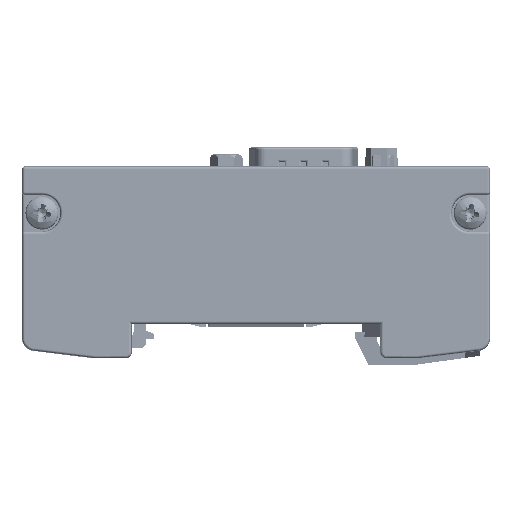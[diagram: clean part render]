
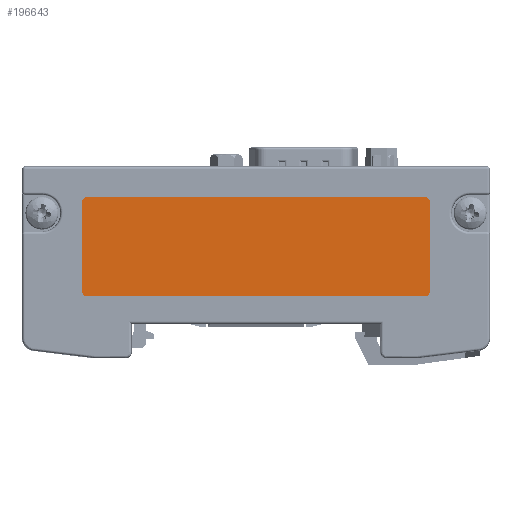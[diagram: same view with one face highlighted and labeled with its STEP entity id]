
A CAD part, left-side view. The second image highlights one B-rep face of the part: STEP entity #196643.
In plain terms, the highlighted planar face has unit normal (-1, 0, 0) as drawn and (0, 0, -1) by its records, which use the part's own axes.
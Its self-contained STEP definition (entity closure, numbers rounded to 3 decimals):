
#757 = DIRECTION ( 'NONE',  ( 0., 1., 0. ) ) ;
#799 = CARTESIAN_POINT ( 'NONE',  ( -21., 28., -3.9 ) ) ;
#1771 = EDGE_CURVE ( 'NONE', #51169, #1893, #32505, .T. ) ;
#1893 = VERTEX_POINT ( 'NONE', #146361 ) ;
#2555 = AXIS2_PLACEMENT_3D ( 'NONE', #127467, #6373, #196494 ) ;
#5740 = FACE_OUTER_BOUND ( 'NONE', #219144, .T. ) ;
#6373 = DIRECTION ( 'NONE',  ( 0., 0., -1. ) ) ;
#7276 = VECTOR ( 'NONE', #65234, 1000. ) ;
#9099 = CARTESIAN_POINT ( 'NONE',  ( -5.75, -28., -3.9 ) ) ;
#12184 = CARTESIAN_POINT ( 'NONE',  ( -20.25, -27.25, -3.9 ) ) ;
#13172 = LINE ( 'NONE', #82224, #7276 ) ;
#20546 = DIRECTION ( 'NONE',  ( 0., -1., 0. ) ) ;
#26476 = EDGE_CURVE ( 'NONE', #1893, #84653, #170309, .T. ) ;
#27188 = VERTEX_POINT ( 'NONE', #131091 ) ;
#30288 = ORIENTED_EDGE ( 'NONE', *, *, #71427, .T. ) ;
#30463 = VERTEX_POINT ( 'NONE', #104572 ) ;
#30677 = EDGE_CURVE ( 'NONE', #49175, #27188, #168936, .T. ) ;
#32505 = LINE ( 'NONE', #799, #89535 ) ;
#33141 = AXIS2_PLACEMENT_3D ( 'NONE', #40536, #209255, #56385 ) ;
#38627 = AXIS2_PLACEMENT_3D ( 'NONE', #12184, #46111, #44989 ) ;
#40536 = CARTESIAN_POINT ( 'NONE',  ( -20.25, 27.25, -3.9 ) ) ;
#41919 = PLANE ( 'NONE',  #49387 ) ;
#44989 = DIRECTION ( 'NONE',  ( -1., 0., 0. ) ) ;
#46005 = ORIENTED_EDGE ( 'NONE', *, *, #26476, .T. ) ;
#46111 = DIRECTION ( 'NONE',  ( 0., 0., -1. ) ) ;
#48112 = DIRECTION ( 'NONE',  ( 0., 0., -1. ) ) ;
#49175 = VERTEX_POINT ( 'NONE', #173368 ) ;
#49387 = AXIS2_PLACEMENT_3D ( 'NONE', #194734, #75890, #72563 ) ;
#51169 = VERTEX_POINT ( 'NONE', #207793 ) ;
#55276 = ORIENTED_EDGE ( 'NONE', *, *, #137631, .T. ) ;
#56385 = DIRECTION ( 'NONE',  ( -1., 0., 0. ) ) ;
#62567 = ORIENTED_EDGE ( 'NONE', *, *, #79240, .T. ) ;
#65234 = DIRECTION ( 'NONE',  ( -1., 0., 0. ) ) ;
#71427 = EDGE_CURVE ( 'NONE', #30463, #51169, #155977, .T. ) ;
#72563 = DIRECTION ( 'NONE',  ( -1., 0., 0. ) ) ;
#72629 = CARTESIAN_POINT ( 'NONE',  ( -5., 28., -3.9 ) ) ;
#73714 = LINE ( 'NONE', #72629, #99868 ) ;
#75890 = DIRECTION ( 'NONE',  ( 0., 0., -1. ) ) ;
#79240 = EDGE_CURVE ( 'NONE', #84653, #176616, #73714, .T. ) ;
#82224 = CARTESIAN_POINT ( 'NONE',  ( -5., -28., -3.9 ) ) ;
#84653 = VERTEX_POINT ( 'NONE', #202610 ) ;
#86980 = ORIENTED_EDGE ( 'NONE', *, *, #1771, .T. ) ;
#89535 = VECTOR ( 'NONE', #204544, 1000. ) ;
#99868 = VECTOR ( 'NONE', #20546, 1000. ) ;
#104572 = CARTESIAN_POINT ( 'NONE',  ( -21., 27.25, -3.9 ) ) ;
#111883 = EDGE_CURVE ( 'NONE', #27188, #30463, #135480, .T. ) ;
#122459 = VERTEX_POINT ( 'NONE', #9099 ) ;
#127458 = CARTESIAN_POINT ( 'NONE',  ( -5., -27.25, -3.9 ) ) ;
#127467 = CARTESIAN_POINT ( 'NONE',  ( -5.75, -27.25, -3.9 ) ) ;
#131091 = CARTESIAN_POINT ( 'NONE',  ( -21., -27.25, -3.9 ) ) ;
#135480 = LINE ( 'NONE', #190842, #209578 ) ;
#137631 = EDGE_CURVE ( 'NONE', #176616, #122459, #147186, .T. ) ;
#145904 = ORIENTED_EDGE ( 'NONE', *, *, #168931, .T. ) ;
#146361 = CARTESIAN_POINT ( 'NONE',  ( -5.75, 28., -3.9 ) ) ;
#147186 = CIRCLE ( 'NONE', #2555, 0.75 ) ;
#155977 = CIRCLE ( 'NONE', #33141, 0.75 ) ;
#158817 = ORIENTED_EDGE ( 'NONE', *, *, #111883, .T. ) ;
#164312 = ORIENTED_EDGE ( 'NONE', *, *, #30677, .T. ) ;
#168931 = EDGE_CURVE ( 'NONE', #122459, #49175, #13172, .T. ) ;
#168936 = CIRCLE ( 'NONE', #38627, 0.75 ) ;
#169232 = DIRECTION ( 'NONE',  ( -1., 0., 0. ) ) ;
#170309 = CIRCLE ( 'NONE', #199179, 0.75 ) ;
#173368 = CARTESIAN_POINT ( 'NONE',  ( -20.25, -28., -3.9 ) ) ;
#176616 = VERTEX_POINT ( 'NONE', #127458 ) ;
#190842 = CARTESIAN_POINT ( 'NONE',  ( -21., -28., -3.9 ) ) ;
#194734 = CARTESIAN_POINT ( 'NONE',  ( 0., 0., -3.9 ) ) ;
#196494 = DIRECTION ( 'NONE',  ( -1., 0., 0. ) ) ;
#196643 = ADVANCED_FACE ( 'NONE', ( #5740 ), #41919, .T. ) ;
#199179 = AXIS2_PLACEMENT_3D ( 'NONE', #220188, #48112, #169232 ) ;
#202610 = CARTESIAN_POINT ( 'NONE',  ( -5., 27.25, -3.9 ) ) ;
#204544 = DIRECTION ( 'NONE',  ( 1., 0., 0. ) ) ;
#207793 = CARTESIAN_POINT ( 'NONE',  ( -20.25, 28., -3.9 ) ) ;
#209255 = DIRECTION ( 'NONE',  ( 0., 0., -1. ) ) ;
#209578 = VECTOR ( 'NONE', #757, 1000. ) ;
#219144 = EDGE_LOOP ( 'NONE', ( #158817, #30288, #86980, #46005, #62567, #55276, #145904, #164312 ) ) ;
#220188 = CARTESIAN_POINT ( 'NONE',  ( -5.75, 27.25, -3.9 ) ) ;
